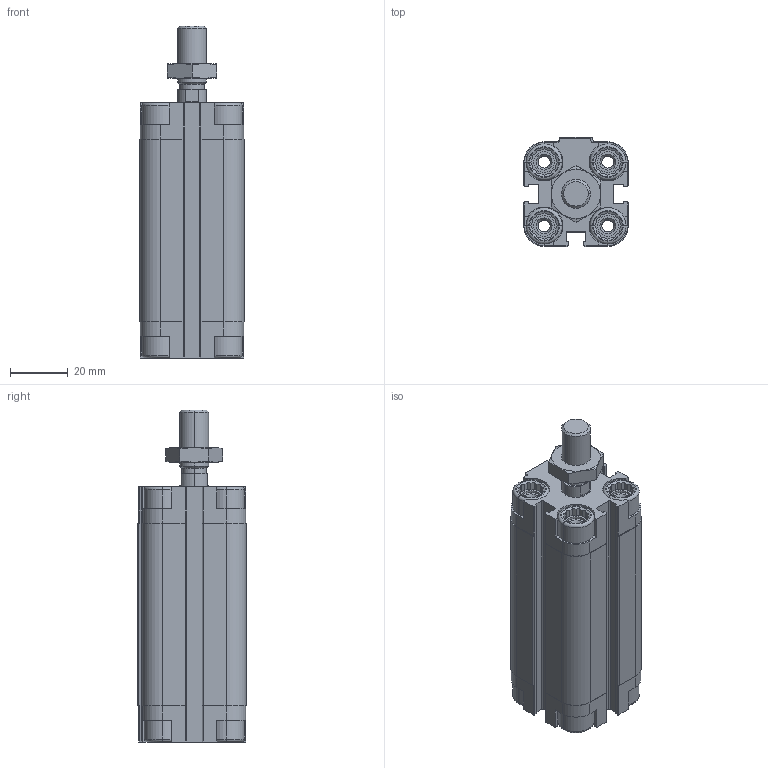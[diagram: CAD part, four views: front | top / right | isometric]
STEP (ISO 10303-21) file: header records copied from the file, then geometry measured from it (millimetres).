
FILE_DESCRIPTION (( 'STEP AP203' ), '1' );
FILE_NAME ('CDVU20-50.STEP', '2020-03-19T11:30:35', ( '' ), ( '' ), 'SwSTEP 2.0', 'SolidWorks 2019', '' );
FILE_SCHEMA (( 'CONFIG_CONTROL_DESIGN' ));
Length unit declared in the file: millimetre
Products named in the file (1): CDVU20-50
Bounding box: 36 x 37.5 x 114.5 mm (x, y, z)
Volume: 78661.3 mm3; surface area: 37365.9 mm2
Topology: 3 solids, 3 shells, 611 faces, 1602 edges, 1034 vertices
Faces by surface type: plane 361, cylinder 180, cone 54, torus 16
Entity records: 19229 total; most frequent: CARTESIAN_POINT 4104, ORIENTED_EDGE 3196, DIRECTION 3062, EDGE_CURVE 1598, AXIS2_PLACEMENT_3D 1056, VERTEX_POINT 1034, LINE 950, VECTOR 950
